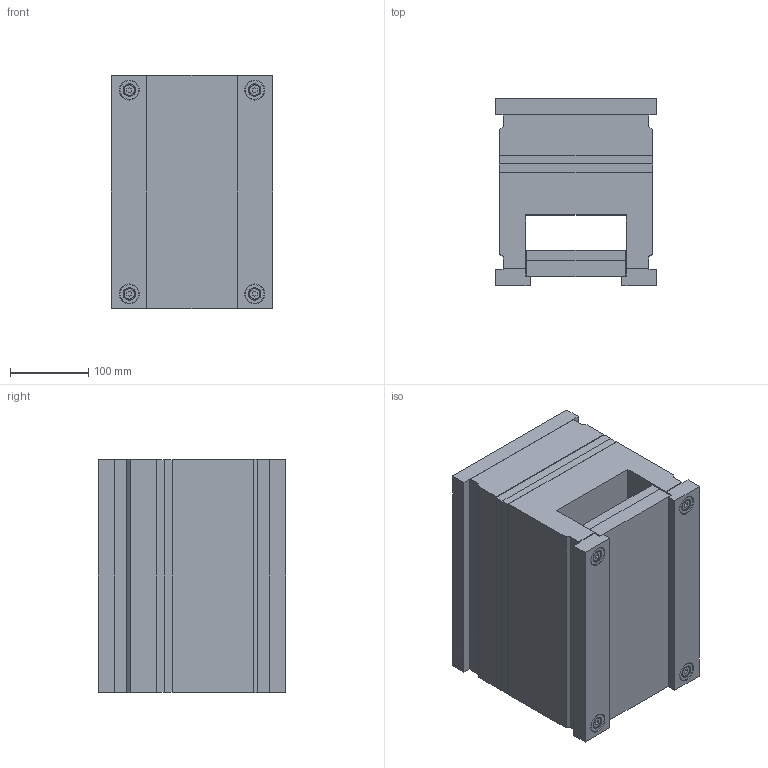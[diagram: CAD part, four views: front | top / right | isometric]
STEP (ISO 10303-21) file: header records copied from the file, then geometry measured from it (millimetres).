
FILE_DESCRIPTION (( 'STEP AP214' ), '1' );
FILE_NAME ('1963.STEP', '2002-07-10T07:52:03', ( 'Simcha Kilim' ), ( 'K. Plastics Engineering' ), 'SwSTEP 2.0', 'SolidWorks 2002025', '' );
FILE_SCHEMA (( 'AUTOMOTIVE_DESIGN' ));
Length unit declared in the file: millimetre
Products named in the file (12): 1963; ALMO (guide pin)_Ø15; ALMO (ejector plate)_1963; ALMO (ejector half)_1963; ALMO (hot half)_1963; ALMO (guide bush)_Ø15; ALMO (ejector return plate)_1963; ALMO (guide bush)_Ø14; ALMO (key plate)_Ø14; ALMO (screw)_M8x115; ALMO (guide pin)_Ø14; ALMO (screw)_M8x60
Assembly tree (28 placements, depth 2):
  1963
    ALMO (guide pin)_Ø15
    ALMO (guide bush)_Ø14  x3
    ALMO (key plate)_Ø14  x8
    ALMO (guide pin)_Ø14  x3
    ALMO (screw)_M8x60  x4
    ALMO (screw)_M8x115  x4
    ALMO (ejector plate)_1963
    ALMO (ejector half)_1963
    ALMO (hot half)_1963
    ALMO (guide bush)_Ø15
    ALMO (ejector return plate)_1963
Bounding box: 206 x 239 x 298 mm (x, y, z)
Volume: 11614659.5 mm3; surface area: 827057.5 mm2
Topology: 28 solids, 28 shells, 706 faces, 1496 edges, 924 vertices
Faces by surface type: cylinder 260, plane 254, cone 192
Entity records: 10477 total; most frequent: DIRECTION 1914, CARTESIAN_POINT 1683, ORIENTED_EDGE 1584, EDGE_CURVE 792, AXIS2_PLACEMENT_3D 729, VERTEX_POINT 498, LINE 456, VECTOR 456
